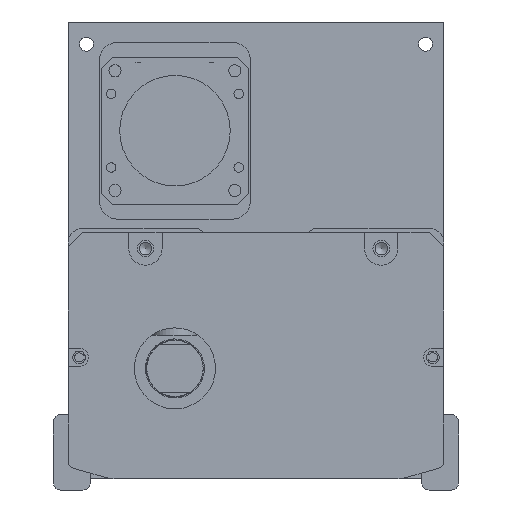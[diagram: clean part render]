
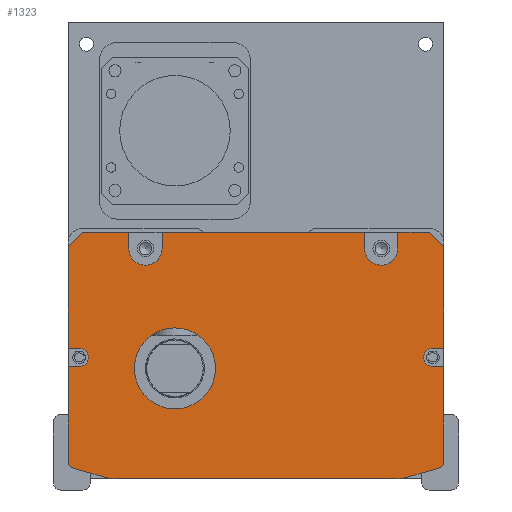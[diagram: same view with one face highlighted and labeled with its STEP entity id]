
A CAD part, front view. The second image highlights one B-rep face of the part: STEP entity #1323.
In plain terms, the highlighted planar face has unit normal (0, -1, 0).
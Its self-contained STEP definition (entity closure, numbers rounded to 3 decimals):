
#1323=ADVANCED_FACE('',(#3944,#3945),#2092,.F.);
#2092=PLANE('',#12837);
#2475=LINE('',#18355,#3237);
#2476=LINE('',#18358,#3238);
#2477=LINE('',#18360,#3239);
#2478=LINE('',#18362,#3240);
#2479=LINE('',#18366,#3241);
#2480=LINE('',#18368,#3242);
#2481=LINE('',#18370,#3243);
#2482=LINE('',#18374,#3244);
#2483=LINE('',#18376,#3245);
#2484=LINE('',#18378,#3246);
#2485=LINE('',#18380,#3247);
#2486=LINE('',#18382,#3248);
#2487=LINE('',#18386,#3249);
#2488=LINE('',#18388,#3250);
#2489=LINE('',#18392,#3251);
#2490=LINE('',#18396,#3252);
#2491=LINE('',#18400,#3253);
#2492=LINE('',#18404,#3254);
#2493=LINE('',#18406,#3255);
#2494=LINE('',#18410,#3256);
#3237=VECTOR('',#14536,1.);
#3238=VECTOR('',#14537,1.);
#3239=VECTOR('',#14538,1.);
#3240=VECTOR('',#14539,1.);
#3241=VECTOR('',#14542,1.);
#3242=VECTOR('',#14543,1.);
#3243=VECTOR('',#14544,1.);
#3244=VECTOR('',#14547,1.);
#3245=VECTOR('',#14548,1.);
#3246=VECTOR('',#14549,1.);
#3247=VECTOR('',#14550,1.);
#3248=VECTOR('',#14551,1.);
#3249=VECTOR('',#14554,1.);
#3250=VECTOR('',#14555,1.);
#3251=VECTOR('',#14558,1.);
#3252=VECTOR('',#14561,1.);
#3253=VECTOR('',#14564,1.);
#3254=VECTOR('',#14567,1.);
#3255=VECTOR('',#14568,1.);
#3256=VECTOR('',#14571,1.);
#3944=FACE_BOUND('',#4582,.T.);
#3945=FACE_BOUND('',#4583,.T.);
#4582=EDGE_LOOP('',(#5837,#5838,#5839,#5840,#5841,#5842,#5843,#5844,#5845,
#5846,#5847,#5848,#5849,#5850,#5851,#5852,#5853,#5854,#5855,#5856,#5857,
#5858,#5859,#5860,#5861,#5862,#5863,#5864));
#4583=EDGE_LOOP('',(#5865));
#5837=ORIENTED_EDGE('',*,*,#10468,.T.);
#5838=ORIENTED_EDGE('',*,*,#10469,.T.);
#5839=ORIENTED_EDGE('',*,*,#10470,.T.);
#5840=ORIENTED_EDGE('',*,*,#10471,.F.);
#5841=ORIENTED_EDGE('',*,*,#10472,.T.);
#5842=ORIENTED_EDGE('',*,*,#10473,.F.);
#5843=ORIENTED_EDGE('',*,*,#10474,.T.);
#5844=ORIENTED_EDGE('',*,*,#10475,.F.);
#5845=ORIENTED_EDGE('',*,*,#10476,.T.);
#5846=ORIENTED_EDGE('',*,*,#10477,.F.);
#5847=ORIENTED_EDGE('',*,*,#10478,.T.);
#5848=ORIENTED_EDGE('',*,*,#10479,.T.);
#5849=ORIENTED_EDGE('',*,*,#10480,.T.);
#5850=ORIENTED_EDGE('',*,*,#10481,.T.);
#5851=ORIENTED_EDGE('',*,*,#10482,.T.);
#5852=ORIENTED_EDGE('',*,*,#10483,.T.);
#5853=ORIENTED_EDGE('',*,*,#10484,.T.);
#5854=ORIENTED_EDGE('',*,*,#10485,.T.);
#5855=ORIENTED_EDGE('',*,*,#10486,.T.);
#5856=ORIENTED_EDGE('',*,*,#10487,.T.);
#5857=ORIENTED_EDGE('',*,*,#10488,.T.);
#5858=ORIENTED_EDGE('',*,*,#10489,.T.);
#5859=ORIENTED_EDGE('',*,*,#10490,.T.);
#5860=ORIENTED_EDGE('',*,*,#10491,.T.);
#5861=ORIENTED_EDGE('',*,*,#10492,.T.);
#5862=ORIENTED_EDGE('',*,*,#10493,.T.);
#5863=ORIENTED_EDGE('',*,*,#10494,.T.);
#5864=ORIENTED_EDGE('',*,*,#10495,.T.);
#5865=ORIENTED_EDGE('',*,*,#10496,.T.);
#9244=VERTEX_POINT('',#18356);
#9245=VERTEX_POINT('',#18357);
#9246=VERTEX_POINT('',#18359);
#9247=VERTEX_POINT('',#18361);
#9248=VERTEX_POINT('',#18363);
#9249=VERTEX_POINT('',#18365);
#9250=VERTEX_POINT('',#18367);
#9251=VERTEX_POINT('',#18369);
#9252=VERTEX_POINT('',#18371);
#9253=VERTEX_POINT('',#18373);
#9254=VERTEX_POINT('',#18375);
#9255=VERTEX_POINT('',#18377);
#9256=VERTEX_POINT('',#18379);
#9257=VERTEX_POINT('',#18381);
#9258=VERTEX_POINT('',#18383);
#9259=VERTEX_POINT('',#18385);
#9260=VERTEX_POINT('',#18387);
#9261=VERTEX_POINT('',#18389);
#9262=VERTEX_POINT('',#18391);
#9263=VERTEX_POINT('',#18393);
#9264=VERTEX_POINT('',#18395);
#9265=VERTEX_POINT('',#18397);
#9266=VERTEX_POINT('',#18399);
#9267=VERTEX_POINT('',#18401);
#9268=VERTEX_POINT('',#18403);
#9269=VERTEX_POINT('',#18405);
#9270=VERTEX_POINT('',#18407);
#9271=VERTEX_POINT('',#18409);
#9272=VERTEX_POINT('',#18412);
#10468=EDGE_CURVE('',#9244,#9245,#2475,.T.);
#10469=EDGE_CURVE('',#9245,#9246,#2476,.T.);
#10470=EDGE_CURVE('',#9246,#9247,#2477,.T.);
#10471=EDGE_CURVE('',#9248,#9247,#2478,.T.);
#10472=EDGE_CURVE('',#9248,#9249,#12077,.T.);
#10473=EDGE_CURVE('',#9250,#9249,#2479,.T.);
#10474=EDGE_CURVE('',#9250,#9251,#2480,.T.);
#10475=EDGE_CURVE('',#9252,#9251,#2481,.T.);
#10476=EDGE_CURVE('',#9252,#9253,#12078,.T.);
#10477=EDGE_CURVE('',#9254,#9253,#2482,.T.);
#10478=EDGE_CURVE('',#9254,#9255,#2483,.T.);
#10479=EDGE_CURVE('',#9255,#9256,#2484,.T.);
#10480=EDGE_CURVE('',#9256,#9257,#2485,.T.);
#10481=EDGE_CURVE('',#9257,#9258,#2486,.T.);
#10482=EDGE_CURVE('',#9258,#9259,#12079,.T.);
#10483=EDGE_CURVE('',#9259,#9260,#2487,.T.);
#10484=EDGE_CURVE('',#9260,#9261,#2488,.T.);
#10485=EDGE_CURVE('',#9261,#9262,#12080,.T.);
#10486=EDGE_CURVE('',#9262,#9263,#2489,.T.);
#10487=EDGE_CURVE('',#9263,#9264,#12081,.T.);
#10488=EDGE_CURVE('',#9264,#9265,#2490,.T.);
#10489=EDGE_CURVE('',#9265,#9266,#12082,.T.);
#10490=EDGE_CURVE('',#9266,#9267,#2491,.T.);
#10491=EDGE_CURVE('',#9267,#9268,#12083,.T.);
#10492=EDGE_CURVE('',#9268,#9269,#2492,.T.);
#10493=EDGE_CURVE('',#9269,#9270,#2493,.T.);
#10494=EDGE_CURVE('',#9270,#9271,#12084,.T.);
#10495=EDGE_CURVE('',#9271,#9244,#2494,.T.);
#10496=EDGE_CURVE('',#9272,#9272,#12085,.T.);
#12077=CIRCLE('',#12828,4.5);
#12078=CIRCLE('',#12829,4.5);
#12079=CIRCLE('',#12830,2.5);
#12080=CIRCLE('',#12831,2.);
#12081=CIRCLE('',#12832,10.);
#12082=CIRCLE('',#12833,10.);
#12083=CIRCLE('',#12834,2.);
#12084=CIRCLE('',#12835,2.5);
#12085=CIRCLE('',#12836,11.);
#12828=AXIS2_PLACEMENT_3D('',#18364,#14540,#14541);
#12829=AXIS2_PLACEMENT_3D('',#18372,#14545,#14546);
#12830=AXIS2_PLACEMENT_3D('',#18384,#14552,#14553);
#12831=AXIS2_PLACEMENT_3D('',#18390,#14556,#14557);
#12832=AXIS2_PLACEMENT_3D('',#18394,#14559,#14560);
#12833=AXIS2_PLACEMENT_3D('',#18398,#14562,#14563);
#12834=AXIS2_PLACEMENT_3D('',#18402,#14565,#14566);
#12835=AXIS2_PLACEMENT_3D('',#18408,#14569,#14570);
#12836=AXIS2_PLACEMENT_3D('',#18411,#14572,#14573);
#12837=AXIS2_PLACEMENT_3D('',#18413,#14574,#14575);
#14536=DIRECTION('',(0.,0.,1.));
#14537=DIRECTION('',(-0.707,0.,0.707));
#14538=DIRECTION('',(-1.,0.,0.));
#14539=DIRECTION('',(0.,0.,1.));
#14540=DIRECTION('',(0.,1.,0.));
#14541=DIRECTION('',(0.,0.,1.));
#14542=DIRECTION('',(0.,0.,-1.));
#14543=DIRECTION('',(-1.,0.,0.));
#14544=DIRECTION('',(0.,0.,1.));
#14545=DIRECTION('',(0.,1.,0.));
#14546=DIRECTION('',(0.,0.,1.));
#14547=DIRECTION('',(0.,0.,-1.));
#14548=DIRECTION('',(-1.,0.,0.));
#14549=DIRECTION('',(-0.707,0.,-0.707));
#14550=DIRECTION('',(0.,0.,-1.));
#14551=DIRECTION('',(1.,0.,0.));
#14552=DIRECTION('',(0.,1.,0.));
#14553=DIRECTION('',(0.,0.,1.));
#14554=DIRECTION('',(-1.,0.,0.));
#14555=DIRECTION('',(0.,0.,-1.));
#14556=DIRECTION('',(0.,-1.,0.));
#14557=DIRECTION('',(0.,0.,1.));
#14558=DIRECTION('',(0.963,0.,-0.269));
#14559=DIRECTION('',(0.,-1.,0.));
#14560=DIRECTION('',(0.,0.,1.));
#14561=DIRECTION('',(1.,0.,0.));
#14562=DIRECTION('',(0.,-1.,0.));
#14563=DIRECTION('',(0.,0.,-1.));
#14564=DIRECTION('',(0.963,0.,0.269));
#14565=DIRECTION('',(0.,-1.,0.));
#14566=DIRECTION('',(0.,0.,-1.));
#14567=DIRECTION('',(0.,0.,1.));
#14568=DIRECTION('',(-1.,0.,0.));
#14569=DIRECTION('',(0.,1.,0.));
#14570=DIRECTION('',(0.,0.,1.));
#14571=DIRECTION('',(1.,0.,0.));
#14572=DIRECTION('',(0.,1.,0.));
#14573=DIRECTION('',(0.,0.,1.));
#14574=DIRECTION('',(0.,1.,0.));
#14575=DIRECTION('',(-1.,0.,0.));
#18355=CARTESIAN_POINT('',(47.808,-217.5,-1.));
#18356=CARTESIAN_POINT('',(47.808,-217.5,-32.5));
#18357=CARTESIAN_POINT('',(47.808,-217.5,-5.));
#18358=CARTESIAN_POINT('',(43.808,-217.5,-1.));
#18359=CARTESIAN_POINT('',(43.808,-217.5,-1.));
#18360=CARTESIAN_POINT('',(-3.192,-217.5,-1.));
#18361=CARTESIAN_POINT('',(35.308,-217.5,-1.));
#18362=CARTESIAN_POINT('',(35.308,-217.5,-1.));
#18363=CARTESIAN_POINT('',(35.308,-217.5,-5.5));
#18364=CARTESIAN_POINT('',(30.808,-217.5,-5.5));
#18365=CARTESIAN_POINT('',(26.308,-217.5,-5.5));
#18366=CARTESIAN_POINT('',(26.308,-217.5,-1.));
#18367=CARTESIAN_POINT('',(26.308,-217.5,-1.));
#18368=CARTESIAN_POINT('',(-54.192,-217.5,-1.));
#18369=CARTESIAN_POINT('',(-28.692,-217.5,-1.));
#18370=CARTESIAN_POINT('',(-28.692,-217.5,-3.5));
#18371=CARTESIAN_POINT('',(-28.692,-217.5,-5.5));
#18372=CARTESIAN_POINT('',(-33.192,-217.5,-5.5));
#18373=CARTESIAN_POINT('',(-37.692,-217.5,-5.5));
#18374=CARTESIAN_POINT('',(-37.692,-217.5,-1.));
#18375=CARTESIAN_POINT('',(-37.692,-217.5,-1.));
#18376=CARTESIAN_POINT('',(-54.192,-217.5,-1.));
#18377=CARTESIAN_POINT('',(-50.192,-217.5,-1.));
#18378=CARTESIAN_POINT('',(-54.192,-217.5,-5.));
#18379=CARTESIAN_POINT('',(-54.192,-217.5,-5.));
#18380=CARTESIAN_POINT('',(-54.192,-217.5,-62.));
#18381=CARTESIAN_POINT('',(-54.192,-217.5,-32.5));
#18382=CARTESIAN_POINT('',(-3.192,-217.5,-32.5));
#18383=CARTESIAN_POINT('',(-51.192,-217.5,-32.5));
#18384=CARTESIAN_POINT('',(-51.192,-217.5,-35.));
#18385=CARTESIAN_POINT('',(-51.192,-217.5,-37.5));
#18386=CARTESIAN_POINT('',(-3.192,-217.5,-37.5));
#18387=CARTESIAN_POINT('',(-54.192,-217.5,-37.5));
#18388=CARTESIAN_POINT('',(-54.192,-217.5,-62.));
#18389=CARTESIAN_POINT('',(-54.192,-217.5,-63.212));
#18390=CARTESIAN_POINT('',(-52.192,-217.5,-63.212));
#18391=CARTESIAN_POINT('',(-52.731,-217.5,-65.138));
#18392=CARTESIAN_POINT('',(-55.807,-217.5,-64.279));
#18393=CARTESIAN_POINT('',(-43.809,-217.5,-67.631));
#18394=CARTESIAN_POINT('',(-41.118,-217.5,-58.));
#18395=CARTESIAN_POINT('',(-41.118,-217.5,-68.));
#18396=CARTESIAN_POINT('',(-54.692,-217.5,-68.));
#18397=CARTESIAN_POINT('',(34.733,-217.5,-68.));
#18398=CARTESIAN_POINT('',(34.733,-217.5,-58.));
#18399=CARTESIAN_POINT('',(37.424,-217.5,-67.631));
#18400=CARTESIAN_POINT('',(49.422,-217.5,-64.279));
#18401=CARTESIAN_POINT('',(46.346,-217.5,-65.138));
#18402=CARTESIAN_POINT('',(45.808,-217.5,-63.212));
#18403=CARTESIAN_POINT('',(47.808,-217.5,-63.212));
#18404=CARTESIAN_POINT('',(47.808,-217.5,-1.));
#18405=CARTESIAN_POINT('',(47.808,-217.5,-37.5));
#18406=CARTESIAN_POINT('',(-3.192,-217.5,-37.5));
#18407=CARTESIAN_POINT('',(44.808,-217.5,-37.5));
#18408=CARTESIAN_POINT('',(44.808,-217.5,-35.));
#18409=CARTESIAN_POINT('',(44.808,-217.5,-32.5));
#18410=CARTESIAN_POINT('',(-3.192,-217.5,-32.5));
#18411=CARTESIAN_POINT('',(-25.192,-217.5,-38.));
#18412=CARTESIAN_POINT('',(-25.192,-217.5,-27.));
#18413=CARTESIAN_POINT('',(-3.192,-217.5,-1.));
